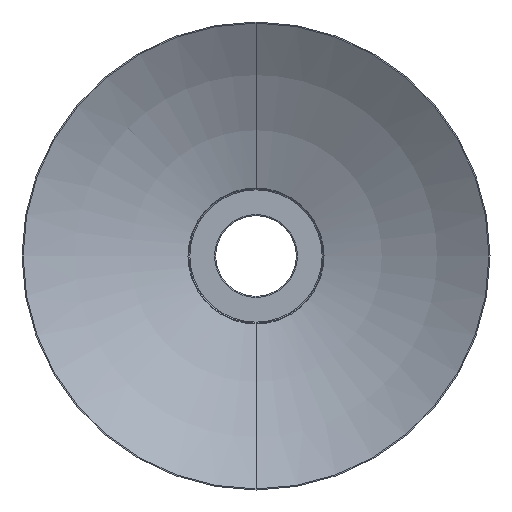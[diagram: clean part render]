
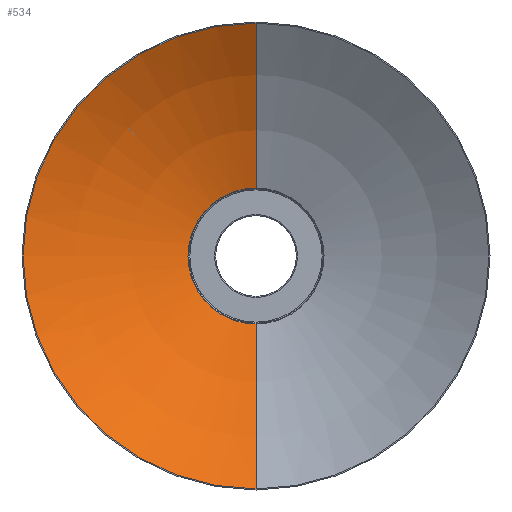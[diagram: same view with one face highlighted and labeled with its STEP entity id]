
A CAD part, front view. The second image highlights one B-rep face of the part: STEP entity #534.
In plain terms, the highlighted toroidal (fillet/blend) face has major radius 15.602 mm and minor radius 103.541 mm.
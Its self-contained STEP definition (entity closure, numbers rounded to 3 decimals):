
#3 = CARTESIAN_POINT ( 'NONE',  ( 0., -40., 43.3 ) ) ;
#111 = EDGE_CURVE ( 'NONE', #489, #612, #439, .T. ) ;
#112 = CARTESIAN_POINT ( 'NONE',  ( 0., -25.541, 0. ) ) ;
#113 = CIRCLE ( 'NONE', #973, 103.541 ) ;
#164 = CARTESIAN_POINT ( 'NONE',  ( 0., -125.154, 15.602 ) ) ;
#181 = CARTESIAN_POINT ( 'NONE',  ( 0., -40., -43.3 ) ) ;
#185 = ORIENTED_EDGE ( 'NONE', *, *, #111, .F. ) ;
#248 = AXIS2_PLACEMENT_3D ( 'NONE', #906, #460, #690 ) ;
#260 = CARTESIAN_POINT ( 'NONE',  ( 0., -25.541, -12.645 ) ) ;
#262 = EDGE_LOOP ( 'NONE', ( #185, #543, #618, #839 ) ) ;
#266 = CARTESIAN_POINT ( 'NONE',  ( 0., -25.541, 12.645 ) ) ;
#360 = FACE_OUTER_BOUND ( 'NONE', #262, .T. ) ;
#364 = DIRECTION ( 'NONE',  ( -1., 0., 0. ) ) ;
#405 = DIRECTION ( 'NONE',  ( 0., 0., -1. ) ) ;
#413 = DIRECTION ( 'NONE',  ( 0., 1., 0. ) ) ;
#418 = EDGE_CURVE ( 'NONE', #473, #864, #425, .T. ) ;
#425 = CIRCLE ( 'NONE', #783, 12.645 ) ;
#439 = CIRCLE ( 'NONE', #248, 43.3 ) ;
#451 = DIRECTION ( 'NONE',  ( 0., 0., 1. ) ) ;
#460 = DIRECTION ( 'NONE',  ( 0., 1., 0. ) ) ;
#473 = VERTEX_POINT ( 'NONE', #260 ) ;
#489 = VERTEX_POINT ( 'NONE', #181 ) ;
#534 = ADVANCED_FACE ( 'NONE', ( #360 ), #830, .F. ) ;
#540 = DIRECTION ( 'NONE',  ( 0., 0., -1. ) ) ;
#543 = ORIENTED_EDGE ( 'NONE', *, *, #627, .T. ) ;
#550 = EDGE_CURVE ( 'NONE', #612, #864, #113, .T. ) ;
#572 = DIRECTION ( 'NONE',  ( 0., 0., 1. ) ) ;
#612 = VERTEX_POINT ( 'NONE', #3 ) ;
#618 = ORIENTED_EDGE ( 'NONE', *, *, #418, .T. ) ;
#627 = EDGE_CURVE ( 'NONE', #489, #473, #854, .T. ) ;
#690 = DIRECTION ( 'NONE',  ( 0., 0., 1. ) ) ;
#709 = AXIS2_PLACEMENT_3D ( 'NONE', #164, #825, #540 ) ;
#725 = CARTESIAN_POINT ( 'NONE',  ( 0., -125.154, 0. ) ) ;
#767 = AXIS2_PLACEMENT_3D ( 'NONE', #725, #413, #572 ) ;
#783 = AXIS2_PLACEMENT_3D ( 'NONE', #112, #855, #405 ) ;
#825 = DIRECTION ( 'NONE',  ( 1., 0., 0. ) ) ;
#830 = TOROIDAL_SURFACE ( 'NONE', #767, -15.602, 103.541 ) ;
#839 = ORIENTED_EDGE ( 'NONE', *, *, #550, .F. ) ;
#854 = CIRCLE ( 'NONE', #709, 103.541 ) ;
#855 = DIRECTION ( 'NONE',  ( 0., 1., 0. ) ) ;
#864 = VERTEX_POINT ( 'NONE', #266 ) ;
#906 = CARTESIAN_POINT ( 'NONE',  ( 0., -40., 0. ) ) ;
#965 = CARTESIAN_POINT ( 'NONE',  ( 0., -125.154, -15.602 ) ) ;
#973 = AXIS2_PLACEMENT_3D ( 'NONE', #965, #364, #451 ) ;
